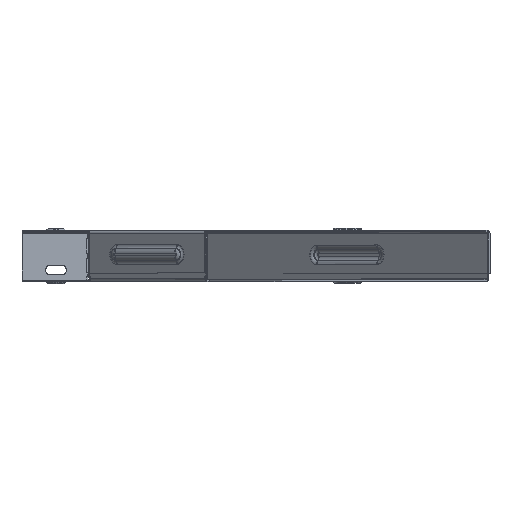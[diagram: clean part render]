
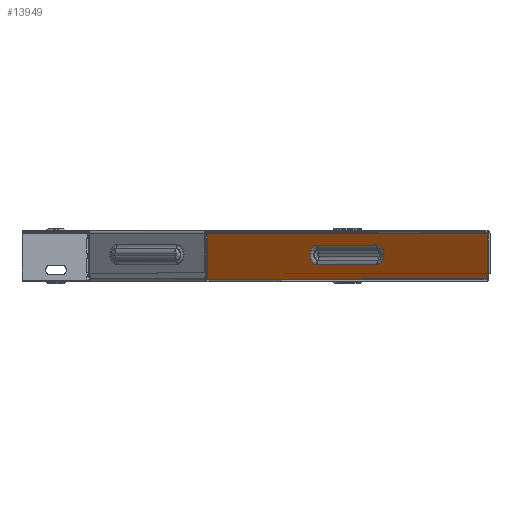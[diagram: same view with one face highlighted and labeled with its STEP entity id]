
A CAD part, top view. The second image highlights one B-rep face of the part: STEP entity #13949.
In plain terms, the highlighted planar face has unit normal (-0.707, 0, 0.707).
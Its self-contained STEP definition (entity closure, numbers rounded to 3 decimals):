
#203 = CARTESIAN_POINT ( 'NONE',  ( 164.123, 1., 35.255 ) ) ;
#253 = CARTESIAN_POINT ( 'NONE',  ( 85.648, 18.1, -43.221 ) ) ;
#505 = CARTESIAN_POINT ( 'NONE',  ( 164.434, 33.2, 35.566 ) ) ;
#1151 = CIRCLE ( 'NONE', #8721, 6.917 ) ;
#1444 = CARTESIAN_POINT ( 'NONE',  ( 43.221, 11.183, -85.648 ) ) ;
#2184 = CARTESIAN_POINT ( 'NONE',  ( 164.123, 33.2, 35.255 ) ) ;
#2516 = CARTESIAN_POINT ( 'NONE',  ( 164.123, 0., 35.255 ) ) ;
#2765 = VERTEX_POINT ( 'NONE', #11832 ) ;
#3224 = CARTESIAN_POINT ( 'NONE',  ( 64.434, 11.183, -64.434 ) ) ;
#3264 = LINE ( 'NONE', #2516, #6228 ) ;
#3328 = EDGE_CURVE ( 'NONE', #10324, #2765, #1151, .T. ) ;
#3339 = CARTESIAN_POINT ( 'NONE',  ( 43.221, 18.1, -85.648 ) ) ;
#3383 = CARTESIAN_POINT ( 'NONE',  ( 43.221, 25.017, -85.648 ) ) ;
#3395 = VERTEX_POINT ( 'NONE', #3383 ) ;
#3483 = AXIS2_PLACEMENT_3D ( 'NONE', #11913, #10623, #10567 ) ;
#3583 = DIRECTION ( 'NONE',  ( -0.707, 0., -0.707 ) ) ;
#3666 = CIRCLE ( 'NONE', #4198, 6.917 ) ;
#3940 = CARTESIAN_POINT ( 'NONE',  ( -35.255, 1., -164.123 ) ) ;
#4198 = AXIS2_PLACEMENT_3D ( 'NONE', #3339, #8259, #15881 ) ;
#4223 = DIRECTION ( 'NONE',  ( 0., 1., 0. ) ) ;
#4259 = FACE_BOUND ( 'NONE', #9757, .T. ) ;
#4333 = CARTESIAN_POINT ( 'NONE',  ( -35.255, 0., -164.123 ) ) ;
#4390 = DIRECTION ( 'NONE',  ( 0.707, 0., 0.707 ) ) ;
#4435 = EDGE_CURVE ( 'NONE', #3395, #10954, #3666, .T. ) ;
#4705 = EDGE_CURVE ( 'NONE', #13010, #13203, #3264, .T. ) ;
#4726 = VERTEX_POINT ( 'NONE', #3940 ) ;
#4952 = LINE ( 'NONE', #4333, #15767 ) ;
#5004 = LINE ( 'NONE', #505, #12289 ) ;
#5788 = VECTOR ( 'NONE', #3583, 1000. ) ;
#6228 = VECTOR ( 'NONE', #6416, 1000. ) ;
#6411 = CARTESIAN_POINT ( 'NONE',  ( 164.434, 1., 35.566 ) ) ;
#6416 = DIRECTION ( 'NONE',  ( 0., 1., 0. ) ) ;
#6680 = EDGE_CURVE ( 'NONE', #12438, #13203, #5004, .T. ) ;
#6771 = ORIENTED_EDGE ( 'NONE', *, *, #8318, .F. ) ;
#7031 = VECTOR ( 'NONE', #4390, 1000. ) ;
#7434 = ORIENTED_EDGE ( 'NONE', *, *, #6680, .F. ) ;
#7705 = ORIENTED_EDGE ( 'NONE', *, *, #4705, .T. ) ;
#7822 = LINE ( 'NONE', #3224, #7031 ) ;
#8177 = LINE ( 'NONE', #8674, #5788 ) ;
#8206 = PLANE ( 'NONE',  #3483 ) ;
#8259 = DIRECTION ( 'NONE',  ( -0.707, 0., 0.707 ) ) ;
#8318 = EDGE_CURVE ( 'NONE', #4726, #12438, #4952, .T. ) ;
#8674 = CARTESIAN_POINT ( 'NONE',  ( 64.434, 25.017, -64.434 ) ) ;
#8702 = ORIENTED_EDGE ( 'NONE', *, *, #4435, .F. ) ;
#8721 = AXIS2_PLACEMENT_3D ( 'NONE', #253, #10494, #4223 ) ;
#8857 = CARTESIAN_POINT ( 'NONE',  ( 85.648, 11.183, -43.221 ) ) ;
#9300 = ORIENTED_EDGE ( 'NONE', *, *, #3328, .F. ) ;
#9757 = EDGE_LOOP ( 'NONE', ( #8702, #10714, #9300, #11462 ) ) ;
#9991 = LINE ( 'NONE', #6411, #13544 ) ;
#10324 = VERTEX_POINT ( 'NONE', #8857 ) ;
#10494 = DIRECTION ( 'NONE',  ( -0.707, 0., 0.707 ) ) ;
#10567 = DIRECTION ( 'NONE',  ( 0.707, 0., 0.707 ) ) ;
#10623 = DIRECTION ( 'NONE',  ( -0.707, 0., 0.707 ) ) ;
#10628 = ORIENTED_EDGE ( 'NONE', *, *, #13470, .F. ) ;
#10714 = ORIENTED_EDGE ( 'NONE', *, *, #14929, .F. ) ;
#10923 = CARTESIAN_POINT ( 'NONE',  ( -35.255, 33.2, -164.123 ) ) ;
#10954 = VERTEX_POINT ( 'NONE', #1444 ) ;
#11462 = ORIENTED_EDGE ( 'NONE', *, *, #13163, .F. ) ;
#11832 = CARTESIAN_POINT ( 'NONE',  ( 85.648, 25.017, -43.221 ) ) ;
#11913 = CARTESIAN_POINT ( 'NONE',  ( 64.434, 0., -64.434 ) ) ;
#12289 = VECTOR ( 'NONE', #15845, 1000. ) ;
#12438 = VERTEX_POINT ( 'NONE', #10923 ) ;
#13010 = VERTEX_POINT ( 'NONE', #203 ) ;
#13163 = EDGE_CURVE ( 'NONE', #10954, #10324, #7822, .T. ) ;
#13203 = VERTEX_POINT ( 'NONE', #2184 ) ;
#13470 = EDGE_CURVE ( 'NONE', #13010, #4726, #9991, .T. ) ;
#13517 = FACE_OUTER_BOUND ( 'NONE', #13680, .T. ) ;
#13544 = VECTOR ( 'NONE', #13907, 1000. ) ;
#13680 = EDGE_LOOP ( 'NONE', ( #10628, #7705, #7434, #6771 ) ) ;
#13907 = DIRECTION ( 'NONE',  ( -0.707, 0., -0.707 ) ) ;
#13949 = ADVANCED_FACE ( 'NONE', ( #4259, #13517 ), #8206, .T. ) ;
#14929 = EDGE_CURVE ( 'NONE', #2765, #3395, #8177, .T. ) ;
#15612 = DIRECTION ( 'NONE',  ( 0., 1., 0. ) ) ;
#15767 = VECTOR ( 'NONE', #15612, 1000. ) ;
#15845 = DIRECTION ( 'NONE',  ( 0.707, 0., 0.707 ) ) ;
#15881 = DIRECTION ( 'NONE',  ( 0., 1., 0. ) ) ;
